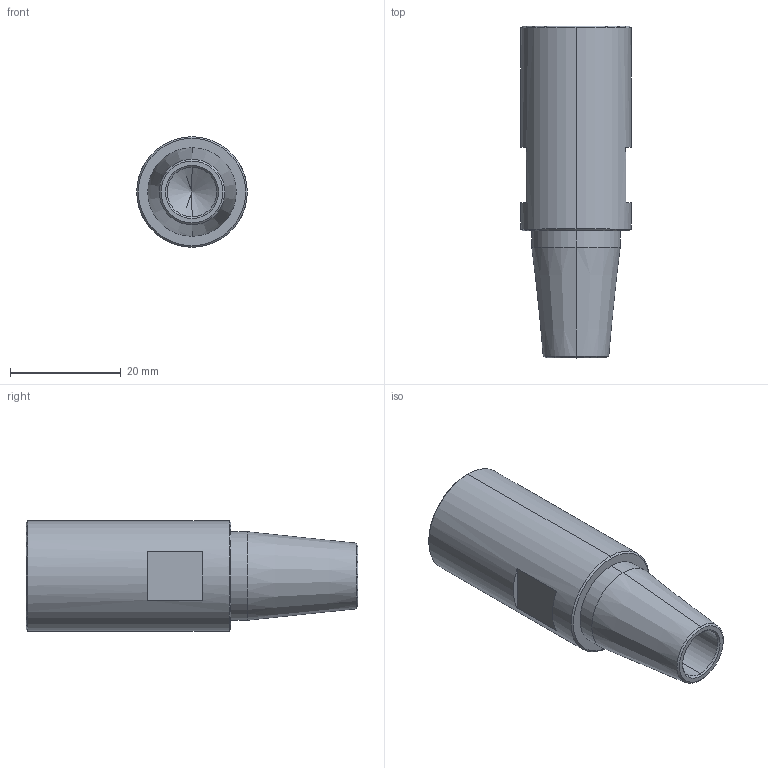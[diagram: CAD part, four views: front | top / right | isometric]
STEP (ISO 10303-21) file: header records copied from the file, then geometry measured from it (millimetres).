
FILE_DESCRIPTION (( 'STEP AP203' ), '1' );
FILE_NAME ('SW-PN-D8-3.STEP', '2022-03-28T06:41:10', ( '' ), ( '' ), 'SwSTEP 2.0', 'SolidWorks 2015', '' );
FILE_SCHEMA (( 'CONFIG_CONTROL_DESIGN' ));
Length unit declared in the file: millimetre
Products named in the file (2): SW-PN-D8-3
Bounding box: 20 x 60 x 20 mm (x, y, z)
Volume: 12078.9 mm3; surface area: 5255.9 mm2
Topology: 1 solids, 1 shells, 33 faces, 68 edges, 38 vertices
Faces by surface type: cone 16, plane 9, cylinder 8
Entity records: 993 total; most frequent: DIRECTION 166, CARTESIAN_POINT 137, ORIENTED_EDGE 128, AXIS2_PLACEMENT_3D 67, EDGE_CURVE 64, VERTEX_POINT 38, EDGE_LOOP 38, ADVANCED_FACE 33
